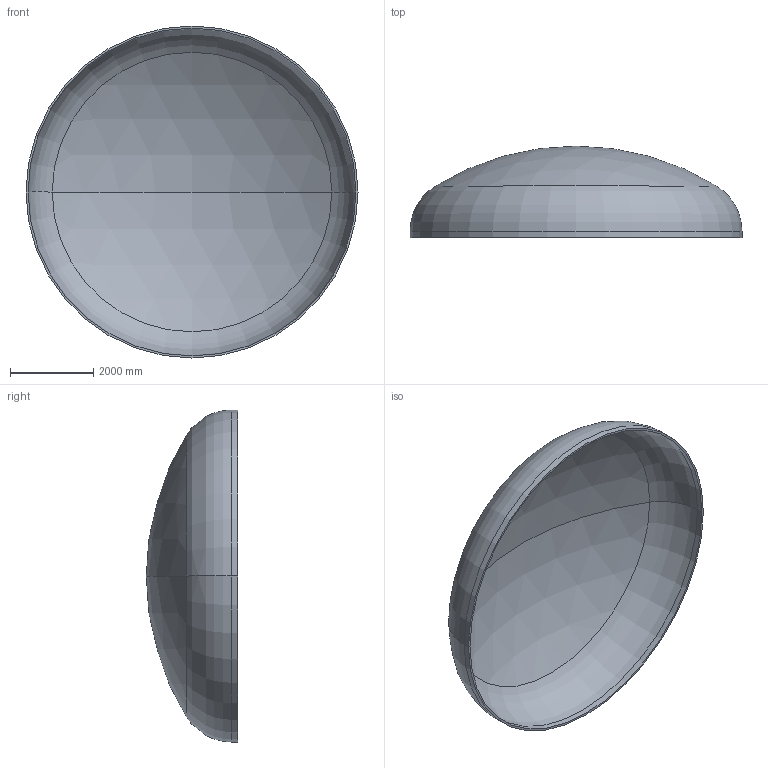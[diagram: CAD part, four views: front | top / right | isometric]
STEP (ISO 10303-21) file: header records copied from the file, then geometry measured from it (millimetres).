
FILE_DESCRIPTION (( 'STEP AP203' ), '1' );
FILE_NAME ('DIN 28013 Korbbogenform_-_Boden DIN 28013 - 8000 x 150 - I - s=49.step', '2016-07-04T11:02:16', ( '' ), ( '' ), 'SwSTEP 2.0', 'SolidWorks 2013', '' );
FILE_SCHEMA (( 'CONFIG_CONTROL_DESIGN' ));
Length unit declared in the file: millimetre
Products named in the file (1): DIN 28013 Korbbogenform_-_Boden DIN 28013 - 8000 x 150 - I - s=49
Bounding box: 8000 x 2202.97 x 8000 mm (x, y, z)
Volume: 3566313028.6 mm3; surface area: 146792730.3 mm2
Topology: 1 solids, 1 shells, 13 faces, 24 edges, 14 vertices
Faces by surface type: torus 4, cylinder 4, sphere 4, plane 1
Entity records: 407 total; most frequent: DIRECTION 72, CARTESIAN_POINT 52, ORIENTED_EDGE 48, AXIS2_PLACEMENT_3D 34, EDGE_CURVE 24, CIRCLE 20, VERTEX_POINT 14, EDGE_LOOP 14
